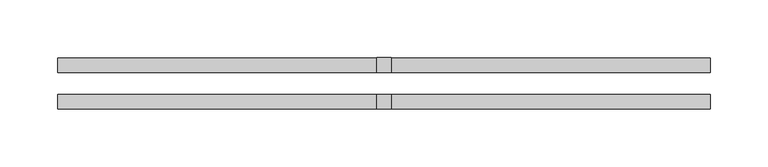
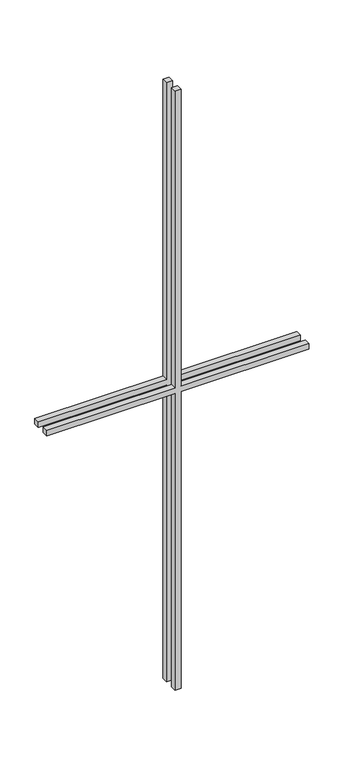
"""IFC4 building model written with IfcOpenShell, lengths in millimetres: proxy geometry, M_Vzor mezilehlého svislého vlysu_2x2 : M_Vzor mezilehlého svislého vlysu_2x2."""

import ifcopenshell
import ifcopenshell.guid

model = None  # the IFC model being written
_history = None  # IfcOwnerHistory: only IFC2X3 demands one
_inside = {}  # id of a spatial element -> (the spatial element, [elements in it])
_under = {}  # id of a project, library or spatial element -> (it, [spatial elements below it])
_declared = {}  # id of a project -> (the project, [libraries it declares])
_typed = {}  # id of a type object -> (the type object, [elements of that type])
_made_of = {}  # id of a material, layer set ... -> (it, [elements and type objects made of it])


def new_model(schema):
    """Start an empty IFC model of exactly this schema.

    Asked for "IFC4X3", IfcOpenShell would pick the latest addendum, in which some entities
    have other attributes; the version numbers below select the first issue.
    IFC2X3 requires an IfcOwnerHistory on every rooted entity: one is made here for all.
    """
    global model, _history
    if schema == "IFC4X3":
        model = ifcopenshell.file(schema_version=(4, 3, 0, 0))
    else:
        model = ifcopenshell.file(schema=schema)
    _inside.clear()
    _under.clear()
    _declared.clear()
    _typed.clear()
    _made_of.clear()
    _history = None
    if model.schema == "IFC2X3":
        org = make("IfcOrganization", Name="unknown")
        user = make(
            "IfcPersonAndOrganization",
            ThePerson=make("IfcPerson", FamilyName="unknown"),
            TheOrganization=org,
        )
        app = make(
            "IfcApplication",
            ApplicationDeveloper=org,
            Version="unknown",
            ApplicationFullName="unknown",
            ApplicationIdentifier="unknown",
        )
        _history = make(
            "IfcOwnerHistory",
            OwningUser=user,
            OwningApplication=app,
            ChangeAction="ADDED",
            CreationDate=0,
        )
    return model


def make(cls, **values):
    """One entity of the class cls with the attributes given. An attribute that is None is left unset."""
    return model.create_entity(
        cls, **{name: value for name, value in values.items() if value is not None}
    )


def rooted(cls, **values):
    """An entity with a GlobalId (a new one), such as an element, a storey or a relation."""
    return make(cls, GlobalId=ifcopenshell.guid.new(), OwnerHistory=_history, **values)


def si_unit(unit_type, name, prefix=None):
    """IfcSIUnit, for example si_unit("LENGTHUNIT", "METRE", prefix="MILLI")."""
    return make("IfcSIUnit", UnitType=unit_type, Prefix=prefix, Name=name)


def assignment(units):
    """IfcUnitAssignment: the units of a project."""
    return None if units is None else make("IfcUnitAssignment", Units=units)


def point(xyz):
    """IfcCartesianPoint."""
    return None if xyz is None else make("IfcCartesianPoint", Coordinates=xyz)


def direction(xyz):
    """IfcDirection."""
    return None if xyz is None else make("IfcDirection", DirectionRatios=xyz)


def frame(location, z_axis=None, x_axis=None):
    """IfcAxis2Placement3D, a coordinate frame: its origin and axes. An axis left out is left unset."""
    return make(
        "IfcAxis2Placement3D",
        Location=point(location),
        Axis=direction(z_axis),
        RefDirection=direction(x_axis),
    )


def origin():
    """The frame at (0, 0, 0) with its axes left unset."""
    return frame((0.0, 0.0, 0.0))


def place(relative_to, where):
    """IfcLocalPlacement: puts the frame where relative to a parent placement (None: the world)."""
    return make(
        "IfcLocalPlacement", PlacementRelTo=relative_to, RelativePlacement=where
    )


def context(
    kind, dimensions, precision=None, world=None, true_north=None, identifier=None
):
    """IfcGeometricRepresentationContext, for example the 3D "Model" context."""
    return make(
        "IfcGeometricRepresentationContext",
        ContextIdentifier=identifier,
        ContextType=kind,
        CoordinateSpaceDimension=dimensions,
        Precision=precision,
        WorldCoordinateSystem=world,
        TrueNorth=true_north,
    )


def project(units=None, contexts=None):
    """IfcProject with its units and contexts."""
    return rooted(
        "IfcProject",
        Name="project",
        RepresentationContexts=contexts,
        UnitsInContext=assignment(units),
    )


def spatial(cls, under=None, at=None, **own):
    """A site, building, storey or space (cls), placed at a placement, below another one or the project."""
    s = rooted(cls, ObjectPlacement=at, **own)
    if under is not None:
        _under.setdefault(under.id(), (under, []))[1].append(s)
    return s


def polyline(points):
    """IfcPolyline through the points."""
    return make("IfcPolyline", Points=[point(p) for p in points])


def outline(outer, holes=None, kind="AREA"):
    """IfcArbitraryClosedProfileDef: a profile drawn as a closed curve; with holes, ...WithVoids."""
    if holes is None:
        return make("IfcArbitraryClosedProfileDef", ProfileType=kind, OuterCurve=outer)
    return make(
        "IfcArbitraryProfileDefWithVoids",
        ProfileType=kind,
        OuterCurve=outer,
        InnerCurves=holes,
    )


def extrude(swept, where, along, depth):
    """IfcExtrudedAreaSolid: the profile swept, set in the frame where, extruded along a direction by depth."""
    return make(
        "IfcExtrudedAreaSolid",
        SweptArea=swept,
        Position=where,
        ExtrudedDirection=direction(along),
        Depth=depth,
    )


def shape(context_of_items, identifier, shape_type, items):
    """IfcShapeRepresentation: the items that make up one representation, for example the "Body"."""
    return make(
        "IfcShapeRepresentation",
        ContextOfItems=context_of_items,
        RepresentationIdentifier=identifier,
        RepresentationType=shape_type,
        Items=items,
    )


def source(mapping_origin, context_of_items, identifier, shape_type, items):
    """IfcRepresentationMap: a shape defined once, which mapped items show again and again."""
    return make(
        "IfcRepresentationMap",
        MappingOrigin=mapping_origin,
        MappedRepresentation=shape(context_of_items, identifier, shape_type, items),
    )


def transform(
    local_origin,
    x_axis=None,
    y_axis=None,
    z_axis=None,
    scale=None,
    scale2=None,
    scale3=None,
    uniform=True,
):
    """IfcCartesianTransformationOperator3D, or its non-uniform kind. x_axis, y_axis, z_axis: its Axis1, 2, 3."""
    if uniform:
        return make(
            "IfcCartesianTransformationOperator3D",
            Axis1=direction(x_axis),
            Axis2=direction(y_axis),
            LocalOrigin=point(local_origin),
            Scale=scale,
            Axis3=direction(z_axis),
        )
    return make(
        "IfcCartesianTransformationOperator3DnonUniform",
        Axis1=direction(x_axis),
        Axis2=direction(y_axis),
        LocalOrigin=point(local_origin),
        Scale=scale,
        Axis3=direction(z_axis),
        Scale2=scale2,
        Scale3=scale3,
    )


def mapped(mapping_source, mapping_target):
    """IfcMappedItem: shows the shape of a source again, moved by a transform."""
    return make(
        "IfcMappedItem", MappingSource=mapping_source, MappingTarget=mapping_target
    )


def made_of(thing, what):
    """Note that an element or type object is made of a material, layer set ...; save() writes the relation."""
    if what is not None:
        _made_of.setdefault(what.id(), (what, []))[1].append(thing)
    return thing


def element(
    cls,
    number,
    at=None,
    inside=None,
    cuts=None,
    type_object=None,
    material=None,
    context=None,
    identifier="Body",
    shape_type=None,
    held_by="IfcProductDefinitionShape",
    body=None,
    shapes=None,
    **own,
):
    """One element of the class cls, such as IfcWall. Its Tag is "e" and its number.

    at: its placement. inside: the storey or other place that contains it. cuts: it is an
    opening in that element (IfcRelVoidsElement). A single representation is given by context,
    identifier, shape_type and body (its items); several are given by shapes. held_by: the class
    of the entity that holds the representations. save() writes the other relations.
    """
    e = rooted(cls, Tag="e%d" % number, ObjectPlacement=at, **own)
    if body is not None:
        shapes = [shape(context, identifier, shape_type, body)]
    if shapes is not None:
        e.Representation = make(held_by, Representations=shapes)
    if inside is not None:
        _inside.setdefault(inside.id(), (inside, []))[1].append(e)
    if cuts is not None:
        rooted(
            "IfcRelVoidsElement", RelatingBuildingElement=cuts, RelatedOpeningElement=e
        )
    if type_object is not None:
        _typed.setdefault(type_object.id(), (type_object, []))[1].append(e)
    return made_of(e, material)


def aggregate(whole, parts):
    """IfcRelAggregates: a whole, such as a stair, and the parts it consists of."""
    return rooted("IfcRelAggregates", RelatingObject=whole, RelatedObjects=parts)


def save(model, path):
    """Write the relations noted so far, then the file.

    IfcRelAggregates (storeys below a building ...), IfcRelContainedInSpatialStructure (elements
    in a storey), IfcRelDefinesByType, IfcRelAssociatesMaterial and IfcRelDeclares: one each for
    every whole, place, type object, material and project.
    """
    for whole, parts in _under.values():
        aggregate(whole, parts)
    for where, things in _inside.values():
        rooted(
            "IfcRelContainedInSpatialStructure",
            RelatedElements=things,
            RelatingStructure=where,
        )
    for kind, things in _typed.values():
        rooted("IfcRelDefinesByType", RelatedObjects=things, RelatingType=kind)
    for what, things in _made_of.values():
        rooted("IfcRelAssociatesMaterial", RelatedObjects=things, RelatingMaterial=what)
    for by, libraries in _declared.values():
        rooted("IfcRelDeclares", RelatingContext=by, RelatedDefinitions=libraries)
    model.write(path)


def generic_models_53b518fb(model_context):
    return source(origin(), model_context, "Body", "SweptSolid", [
        extrude(outline(polyline([(686.5, -6.35), (686.5, -281.7375), (673.8, -281.7375), (673.8, -6.35), (0.0, -6.35), (0.0, 6.35), (673.8, 6.35), (673.8, 281.7375), (686.5, 281.7375), (686.5, 6.35), (1360.3, 6.35), (1360.3, -6.35), (686.5, -6.35)])), frame((0.0, -22.225, 0.0), z_axis=(0.0, 1.0, 0.0), x_axis=(0.0, 0.0, 1.0)), (0.0, 0.0, 1.0), 12.7),
        extrude(outline(polyline([(686.5, -6.35), (686.5, -281.7375), (673.8, -281.7375), (673.8, -6.35), (0.0, -6.35), (0.0, 6.35), (673.8, 6.35), (673.8, 281.7375), (686.5, 281.7375), (686.5, 6.35), (1360.3, 6.35), (1360.3, -6.35), (686.5, -6.35)])), frame((0.0, 9.525, 0.0), z_axis=(0.0, 1.0, 0.0), x_axis=(0.0, 0.0, 1.0)), (0.0, 0.0, 1.0), 12.7),
    ])


if __name__ == "__main__":
    model = new_model("IFC4")
    model_context = context("Model", 3, world=origin())
    ifc_project = project(units=[si_unit("LENGTHUNIT", "METRE", prefix="MILLI")], contexts=[model_context])
    site = spatial("IfcSite", under=ifc_project)
    building = spatial("IfcBuilding", under=site)
    placement = place(None, origin())
    generic_models_shape = generic_models_53b518fb(model_context)
    element("IfcBuildingElementProxy", 1, Name="M_Vzor mezilehlého svislého vlysu_2x2 : M_Vzor mezilehlého svislého vlysu_2x2", ObjectType="M_Vzor mezilehlého svislého vlysu_2x2 : M_Vzor mezilehlého svislého vlysu_2x2", at=placement, inside=building, context=model_context, shape_type="MappedRepresentation", body=[
        mapped(generic_models_shape, transform((0.0, 0.0, 0.0), x_axis=(1.0, 0.0, 0.0), y_axis=(0.0, 1.0, 0.0), z_axis=(0.0, 0.0, 1.0))),
    ])
    save(model, "model.ifc")
